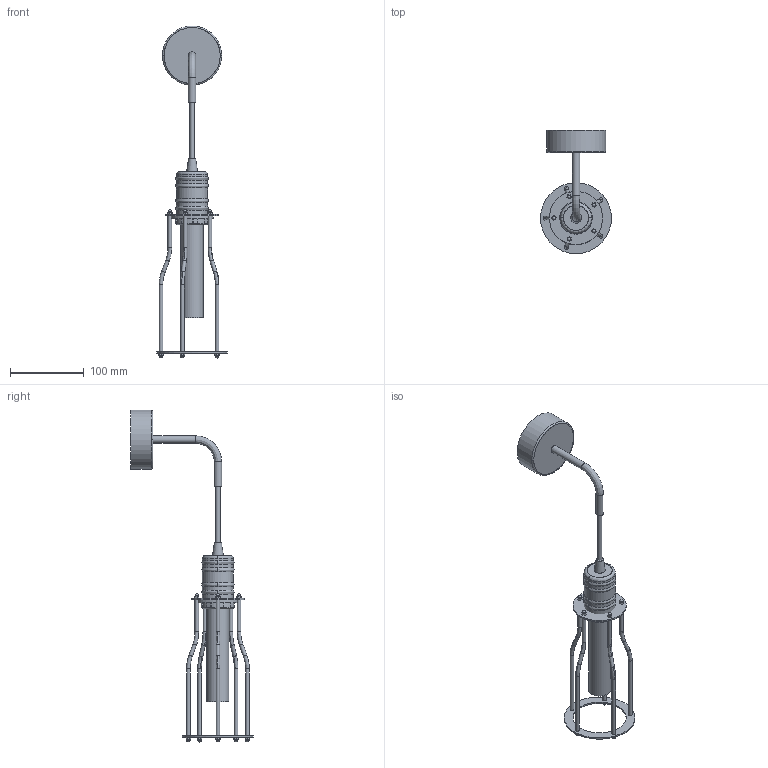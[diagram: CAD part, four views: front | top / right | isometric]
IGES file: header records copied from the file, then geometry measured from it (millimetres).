
Start section: SolidWorks IGES file using analytic representation for surfaces
Global section: file name: X:\PRODUKT\Modele 3D_WWW\_KOLEKCJE WWW\WORKSHOP\WORKSHOP-A-KINKIET-6605\WORKSHOP-A-KINKIET-6605.IGS; native system: SolidWorks 2021; preprocessor: SolidWorks 2021; author: gabriela.tworek; date: 221117.081816; units: millimetre
Bounding box: 96 x 166.04 x 449.03 mm (x, y, z)
Surface area: 100438.3 mm2 (no closed solid volume)
Topology: 0 solids, 0 shells, 329 faces, 1278 edges, 1183 vertices
Faces by surface type: bspline 218, revolution 111
